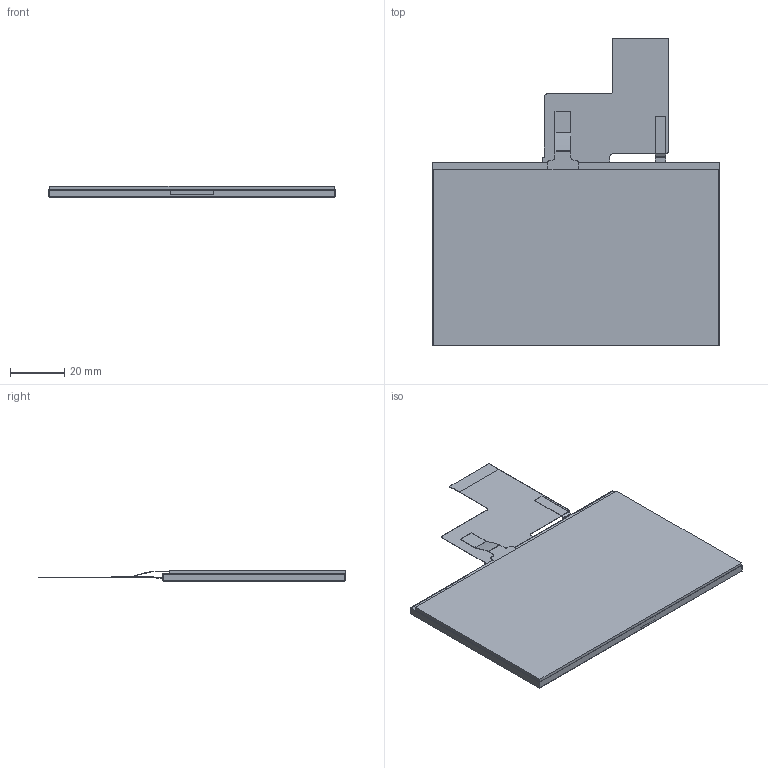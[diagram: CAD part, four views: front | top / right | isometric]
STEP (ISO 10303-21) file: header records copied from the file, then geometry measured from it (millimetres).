
FILE_DESCRIPTION (( 'STEP AP203' ), '1' );
FILE_NAME ('verified_NHD-4.3-480272EF-ASXP-T_Rev1A.STEP', '2021-12-01T18:58:20', ( '' ), ( '' ), 'SwSTEP 2.0', 'SolidWorks 2019', '' );
FILE_SCHEMA (( 'CONFIG_CONTROL_DESIGN' ));
Length unit declared in the file: millimetre
Products named in the file (1): verified_NHD-4.3-480272EF-ASXP-T_Rev1A
Bounding box: 105.5 x 112.87 x 4.15 mm (x, y, z)
Volume: 22925.9 mm3; surface area: 50051.6 mm2
Topology: 4 solids, 4 shells, 129 faces, 350 edges, 232 vertices
Faces by surface type: plane 105, cylinder 24
Entity records: 4095 total; most frequent: CARTESIAN_POINT 712, ORIENTED_EDGE 700, DIRECTION 658, EDGE_CURVE 350, LINE 302, VECTOR 302, VERTEX_POINT 232, AXIS2_PLACEMENT_3D 178
